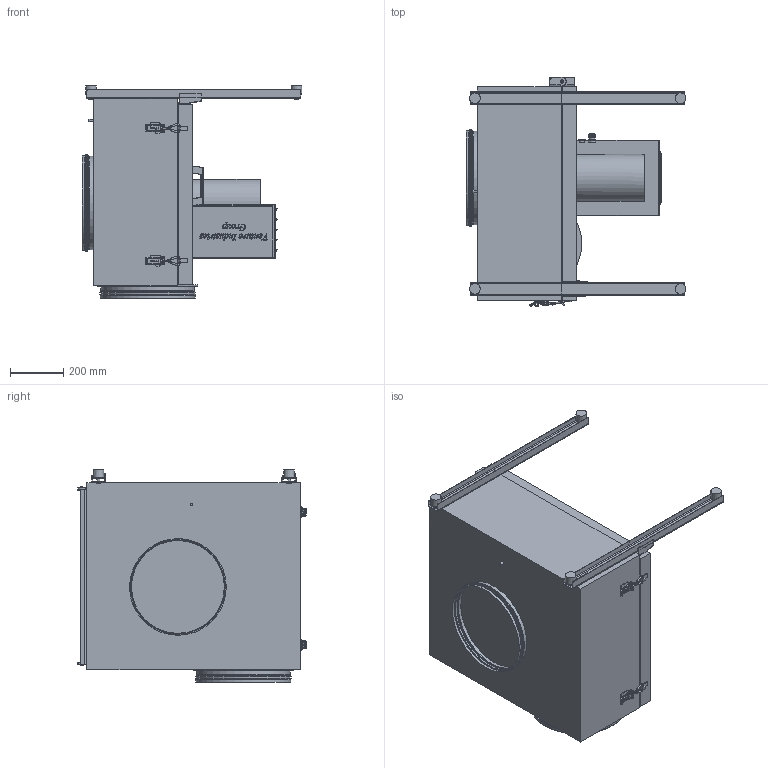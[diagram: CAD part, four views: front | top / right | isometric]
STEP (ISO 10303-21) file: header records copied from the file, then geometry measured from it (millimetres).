
FILE_DESCRIPTION(/* description */ (''),/* implementation_level */ '2;1');
FILE_NAME(/* name */ 'E:\Mariusz\Modele uproszczone\KEF\KEF 355\KEF_2_355_100_XXX 425013085\KEF_2_355_100_XXX 425013085.stp',/* time_stamp */ '2019-07-25T12:02:11+02:00',/* author */ ('M.Janczarek'),/* organization */ (''),/* preprocessor_version */ 'ST-DEVELOPER v16.13',/* originating_system */ 'Autodesk Inventor 2018',/* authorisation */ '');
FILE_SCHEMA (('AUTOMOTIVE_DESIGN { 1 0 10303 214 3 1 1 }'));
Products named in the file (1): KEF_2_355_100_XXX 425013085
Bounding box: 823.65 x 857 x 796 mm (x, y, z)
Volume: 214969606.1 mm3; surface area: 3665287.1 mm2
Topology: 1 solids, 1 shells, 3246 faces, 9005 edges, 5865 vertices
Faces by surface type: plane 2102, bspline 636, cylinder 377, cone 68, torus 55, sphere 8
Full cylindrical faces by diameter (mm): 3 x8, 5.2 x4, 6 x12, 7 x3, 8 x4, 8.6 x4, 9 x1, 9.5 x2, 10 x2, 10.9 x4, 12 x2, 13.5 x1, 16 x6, 20 x3, 23 x1, 24 x1, 40.4 x4, 176 x1, 347.4 x2, 349 x4, 349.4 x2, 350.6 x2, 351 x2, 352 x4, 353 x2, 353.4 x2, 355 x2, 362 x4, 375 x1
Entity records: 111581 total; most frequent: CARTESIAN_POINT 30445, ORIENTED_EDGE 17550, DIRECTION 14181, EDGE_CURVE 8775, LINE 5925, VECTOR 5925, VERTEX_POINT 5798, AXIS2_PLACEMENT_3D 4128
